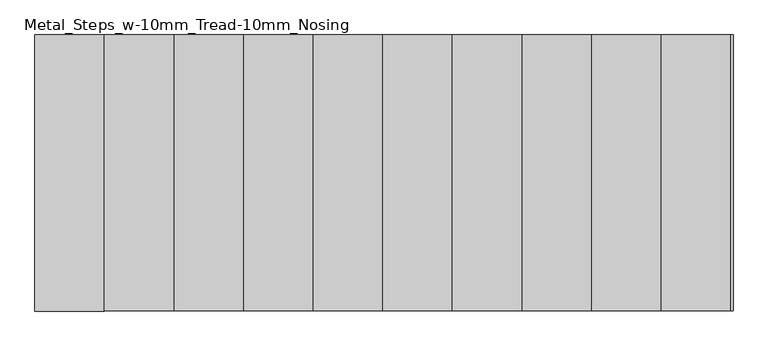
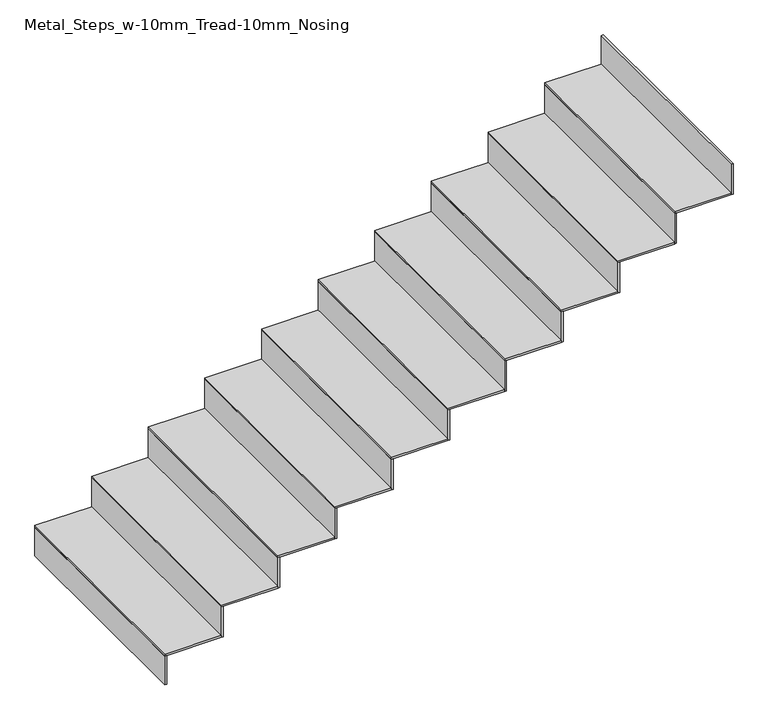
"""IFC4 building model written with IfcOpenShell, lengths in millimetres: stair flight geometry, Metal_Steps_w-10mm_Tread-10mm_Nosing."""

from ifc_helpers import new_model, si_unit, frame, origin, place, context, project, spatial, polyline, outline, extrude, source, transform, mapped, element, save


def metal_steps_w_10mm_tread_10mm_nosing_5f275db2(model_context):
    return source(origin(), model_context, "Body", "SweptSolid", [
        extrude(outline(polyline([(-791.4958562, 12334.1395051), (-801.4958562, 12334.1395051), (-801.4958562, 13524.1395051), (-791.4958562, 13524.1395051), (-791.4958562, 12334.1395051)])), frame((0.0, 0.0, 11260.0), z_axis=(0.0, 0.0, 1.0), x_axis=(1.0, 0.0, 0.0)), (0.0, 0.0, 1.0), 160.4545455),
        extrude(outline(polyline([(-501.4958562, 13524.1395051), (-501.4958562, 12334.1395051), (-801.4958562, 12334.1395051), (-801.4958562, 13524.1395051), (-501.4958562, 13524.1395051)])), frame((0.0, 0.0, 11420.4545455), z_axis=(0.0, 0.0, 1.0), x_axis=(1.0, 0.0, 0.0)), (0.0, 0.0, 1.0), 10.0),
        extrude(outline(polyline([(-491.4958562, 12334.1395051), (-501.4958562, 12334.1395051), (-501.4958562, 13524.1395051), (-491.4958562, 13524.1395051), (-491.4958562, 12334.1395051)])), frame((0.0, 0.0, 11420.4545455), z_axis=(0.0, 0.0, 1.0), x_axis=(1.0, 0.0, 0.0)), (0.0, 0.0, 1.0), 170.4545455),
        extrude(outline(polyline([(-201.4958562, 13524.1395051), (-201.4958562, 12334.1395051), (-501.4958562, 12334.1395051), (-501.4958562, 13524.1395051), (-201.4958562, 13524.1395051)])), frame((0.0, 0.0, 11590.9090909), z_axis=(0.0, 0.0, 1.0), x_axis=(1.0, 0.0, 0.0)), (0.0, 0.0, 1.0), 10.0),
        extrude(outline(polyline([(-191.4958562, 12334.1395051), (-201.4958562, 12334.1395051), (-201.4958562, 13524.1395051), (-191.4958562, 13524.1395051), (-191.4958562, 12334.1395051)])), frame((0.0, 0.0, 11590.9090909), z_axis=(0.0, 0.0, 1.0), x_axis=(1.0, 0.0, 0.0)), (0.0, 0.0, 1.0), 170.4545455),
        extrude(outline(polyline([(98.5041438, 13524.1395051), (98.5041438, 12334.1395051), (-201.4958562, 12334.1395051), (-201.4958562, 13524.1395051), (98.5041438, 13524.1395051)])), frame((0.0, 0.0, 11761.3636364), z_axis=(0.0, 0.0, 1.0), x_axis=(1.0, 0.0, 0.0)), (0.0, 0.0, 1.0), 10.0),
        extrude(outline(polyline([(108.5041438, 12334.1395051), (98.5041438, 12334.1395051), (98.5041438, 13524.1395051), (108.5041438, 13524.1395051), (108.5041438, 12334.1395051)])), frame((0.0, 0.0, 11761.3636364), z_axis=(0.0, 0.0, 1.0), x_axis=(1.0, 0.0, 0.0)), (0.0, 0.0, 1.0), 170.4545455),
        extrude(outline(polyline([(398.5041438, 13524.1395051), (398.5041438, 12334.1395051), (98.5041438, 12334.1395051), (98.5041438, 13524.1395051), (398.5041438, 13524.1395051)])), frame((0.0, 0.0, 11931.8181818), z_axis=(0.0, 0.0, 1.0), x_axis=(1.0, 0.0, 0.0)), (0.0, 0.0, 1.0), 10.0),
        extrude(outline(polyline([(408.5041438, 12334.1395051), (398.5041438, 12334.1395051), (398.5041438, 13524.1395051), (408.5041438, 13524.1395051), (408.5041438, 12334.1395051)])), frame((0.0, 0.0, 11931.8181818), z_axis=(0.0, 0.0, 1.0), x_axis=(1.0, 0.0, 0.0)), (0.0, 0.0, 1.0), 170.4545455),
        extrude(outline(polyline([(698.5041438, 13524.1395051), (698.5041438, 12334.1395051), (398.5041438, 12334.1395051), (398.5041438, 13524.1395051), (698.5041438, 13524.1395051)])), frame((0.0, 0.0, 12102.2727273), z_axis=(0.0, 0.0, 1.0), x_axis=(1.0, 0.0, 0.0)), (0.0, 0.0, 1.0), 10.0),
        extrude(outline(polyline([(708.5041438, 12334.1395051), (698.5041438, 12334.1395051), (698.5041438, 13524.1395051), (708.5041438, 13524.1395051), (708.5041438, 12334.1395051)])), frame((0.0, 0.0, 12102.2727273), z_axis=(0.0, 0.0, 1.0), x_axis=(1.0, 0.0, 0.0)), (0.0, 0.0, 1.0), 170.4545455),
        extrude(outline(polyline([(998.5041438, 13524.1395051), (998.5041438, 12334.1395051), (698.5041438, 12334.1395051), (698.5041438, 13524.1395051), (998.5041438, 13524.1395051)])), frame((0.0, 0.0, 12272.7272727), z_axis=(0.0, 0.0, 1.0), x_axis=(1.0, 0.0, 0.0)), (0.0, 0.0, 1.0), 10.0),
        extrude(outline(polyline([(1008.5041438, 12334.1395051), (998.5041438, 12334.1395051), (998.5041438, 13524.1395051), (1008.5041438, 13524.1395051), (1008.5041438, 12334.1395051)])), frame((0.0, 0.0, 12272.7272727), z_axis=(0.0, 0.0, 1.0), x_axis=(1.0, 0.0, 0.0)), (0.0, 0.0, 1.0), 170.4545455),
        extrude(outline(polyline([(1298.5041438, 13524.1395051), (1298.5041438, 12334.1395051), (998.5041438, 12334.1395051), (998.5041438, 13524.1395051), (1298.5041438, 13524.1395051)])), frame((0.0, 0.0, 12443.1818182), z_axis=(0.0, 0.0, 1.0), x_axis=(1.0, 0.0, 0.0)), (0.0, 0.0, 1.0), 10.0),
        extrude(outline(polyline([(1308.5041438, 12334.1395051), (1298.5041438, 12334.1395051), (1298.5041438, 13524.1395051), (1308.5041438, 13524.1395051), (1308.5041438, 12334.1395051)])), frame((0.0, 0.0, 12443.1818182), z_axis=(0.0, 0.0, 1.0), x_axis=(1.0, 0.0, 0.0)), (0.0, 0.0, 1.0), 170.4545455),
        extrude(outline(polyline([(1598.5041438, 13524.1395051), (1598.5041438, 12334.1395051), (1298.5041438, 12334.1395051), (1298.5041438, 13524.1395051), (1598.5041438, 13524.1395051)])), frame((0.0, 0.0, 12613.6363636), z_axis=(0.0, 0.0, 1.0), x_axis=(1.0, 0.0, 0.0)), (0.0, 0.0, 1.0), 10.0),
        extrude(outline(polyline([(1608.5041438, 12334.1395051), (1598.5041438, 12334.1395051), (1598.5041438, 13524.1395051), (1608.5041438, 13524.1395051), (1608.5041438, 12334.1395051)])), frame((0.0, 0.0, 12613.6363636), z_axis=(0.0, 0.0, 1.0), x_axis=(1.0, 0.0, 0.0)), (0.0, 0.0, 1.0), 170.4545455),
        extrude(outline(polyline([(1898.5041438, 13524.1395051), (1898.5041438, 12334.1395051), (1598.5041438, 12334.1395051), (1598.5041438, 13524.1395051), (1898.5041438, 13524.1395051)])), frame((0.0, 0.0, 12784.0909091), z_axis=(0.0, 0.0, 1.0), x_axis=(1.0, 0.0, 0.0)), (0.0, 0.0, 1.0), 10.0),
        extrude(outline(polyline([(1908.5041438, 12334.1395051), (1898.5041438, 12334.1395051), (1898.5041438, 13524.1395051), (1908.5041438, 13524.1395051), (1908.5041438, 12334.1395051)])), frame((0.0, 0.0, 12784.0909091), z_axis=(0.0, 0.0, 1.0), x_axis=(1.0, 0.0, 0.0)), (0.0, 0.0, 1.0), 170.4545455),
        extrude(outline(polyline([(2198.5041438, 13524.1395051), (2198.5041438, 12334.1395051), (1898.5041438, 12334.1395051), (1898.5041438, 13524.1395051), (2198.5041438, 13524.1395051)])), frame((0.0, 0.0, 12954.5454545), z_axis=(0.0, 0.0, 1.0), x_axis=(1.0, 0.0, 0.0)), (0.0, 0.0, 1.0), 10.0),
        extrude(outline(polyline([(2208.5041438, 12334.1395051), (2198.5041438, 12334.1395051), (2198.5041438, 13524.1395051), (2208.5041438, 13524.1395051), (2208.5041438, 12334.1395051)])), frame((0.0, 0.0, 12954.5454545), z_axis=(0.0, 0.0, 1.0), x_axis=(1.0, 0.0, 0.0)), (0.0, 0.0, 1.0), 170.4545455),
    ])


if __name__ == "__main__":
    model = new_model("IFC4")
    model_context = context("Model", 3, world=origin())
    ifc_project = project(units=[si_unit("LENGTHUNIT", "METRE", prefix="MILLI")], contexts=[model_context])
    site = spatial("IfcSite", under=ifc_project)
    building = spatial("IfcBuilding", under=site)
    placement = place(None, origin())
    metal_steps_w_10mm_tread_10mm_nosing_shape = metal_steps_w_10mm_tread_10mm_nosing_5f275db2(model_context)
    element("IfcStairFlight", 1, ObjectType="Metal_Steps_w-10mm_Tread-10mm_Nosing", at=placement, inside=building, context=model_context, shape_type="MappedRepresentation", body=[
        mapped(metal_steps_w_10mm_tread_10mm_nosing_shape, transform((0.0, 0.0, 0.0), x_axis=(1.0, 0.0, 0.0), y_axis=(0.0, 1.0, 0.0), z_axis=(0.0, 0.0, 1.0))),
    ])
    save(model, "model.ifc")
